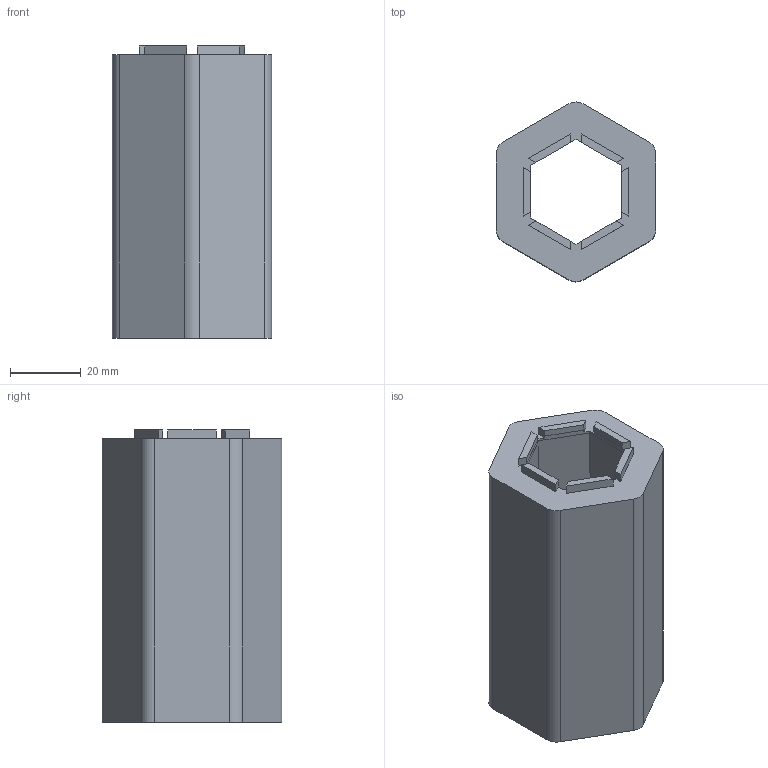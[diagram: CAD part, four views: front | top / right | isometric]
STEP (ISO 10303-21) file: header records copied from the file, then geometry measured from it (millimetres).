
FILE_DESCRIPTION(/* description */ ('','CAx-IF Rec.Pracs.---Representation and Presentation of Product Manufacturing Information (PMI)---4.0---2014-10-13'),/* implementation_level */ '2;1');
FILE_NAME(/* name */ 'Turm-80.step',/* time_stamp */ '2025-01-06T17:43:41+01:00',/* author */ (''),/* organization */ (''),/* preprocessor_version */ 'ST-DEVELOPER v20',/* originating_system */ 'Autodesk Translation Framework v13.20.0.188',/* authorisation */ '');
FILE_SCHEMA (('AP242_MANAGED_MODEL_BASED_3D_ENGINEERING_MIM_LF { 1 0 10303 442 1 1 4 }'));
Length unit declared in the file: millimetre
Products named in the file (1): 01_Turm-80
Bounding box: 45 x 50.72 x 82.5 mm (x, y, z)
Volume: 86779.1 mm3; surface area: 22569 mm2
Topology: 1 solids, 1 shells, 62 faces, 174 edges, 114 vertices
Faces by surface type: plane 50, bspline 6, cylinder 6
Entity records: 2324 total; most frequent: CARTESIAN_POINT 783, ORIENTED_EDGE 348, DIRECTION 252, EDGE_CURVE 174, LINE 114, VECTOR 114, VERTEX_POINT 114, AXIS2_PLACEMENT_3D 69
